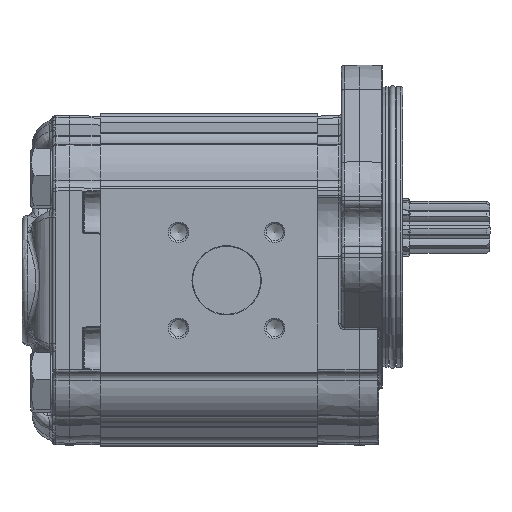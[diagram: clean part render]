
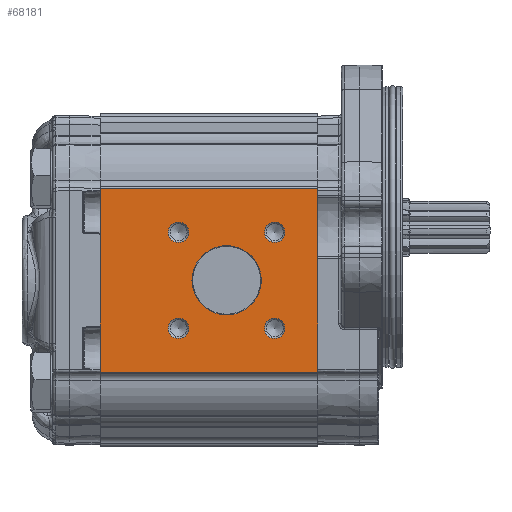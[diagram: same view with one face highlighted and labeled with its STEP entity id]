
A CAD part, left-side view. The second image highlights one B-rep face of the part: STEP entity #68181.
In plain terms, the highlighted planar face has unit normal (-1, 0, 0).
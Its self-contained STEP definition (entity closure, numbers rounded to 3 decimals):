
#4571=PLANE('',#72647);
#6362=CIRCLE('',#72648,10.2);
#6363=CIRCLE('',#72649,3.);
#6364=CIRCLE('',#72650,3.);
#6365=CIRCLE('',#72651,3.);
#6366=CIRCLE('',#72652,3.);
#14545=ORIENTED_EDGE('',*,*,#25306,.T.);
#14546=ORIENTED_EDGE('',*,*,#25307,.T.);
#14547=ORIENTED_EDGE('',*,*,#25308,.T.);
#14548=ORIENTED_EDGE('',*,*,#25309,.T.);
#14549=ORIENTED_EDGE('',*,*,#25310,.T.);
#14550=ORIENTED_EDGE('',*,*,#25311,.F.);
#14551=ORIENTED_EDGE('',*,*,#25312,.F.);
#14552=ORIENTED_EDGE('',*,*,#25313,.T.);
#14553=ORIENTED_EDGE('',*,*,#25314,.T.);
#25306=EDGE_CURVE('',#31071,#31071,#6362,.F.);
#25307=EDGE_CURVE('',#31072,#31072,#6363,.F.);
#25308=EDGE_CURVE('',#31073,#31073,#6364,.F.);
#25309=EDGE_CURVE('',#31074,#31074,#6365,.F.);
#25310=EDGE_CURVE('',#31075,#31075,#6366,.F.);
#25311=EDGE_CURVE('',#31076,#31077,#34396,.T.);
#25312=EDGE_CURVE('',#31078,#31076,#34397,.T.);
#25313=EDGE_CURVE('',#31078,#31079,#34398,.T.);
#25314=EDGE_CURVE('',#31079,#31077,#34399,.T.);
#31071=VERTEX_POINT('',#115234);
#31072=VERTEX_POINT('',#115236);
#31073=VERTEX_POINT('',#115238);
#31074=VERTEX_POINT('',#115240);
#31075=VERTEX_POINT('',#115242);
#31076=VERTEX_POINT('',#115244);
#31077=VERTEX_POINT('',#115245);
#31078=VERTEX_POINT('',#115247);
#31079=VERTEX_POINT('',#115249);
#34396=LINE('',#115243,#36756);
#34397=LINE('',#115246,#36757);
#34398=LINE('',#115248,#36758);
#34399=LINE('',#115250,#36759);
#36756=VECTOR('',#81582,1000.);
#36757=VECTOR('',#81583,1000.);
#36758=VECTOR('',#81584,1000.);
#36759=VECTOR('',#81585,1000.);
#39741=EDGE_LOOP('',(#14545));
#39742=EDGE_LOOP('',(#14546));
#39743=EDGE_LOOP('',(#14547));
#39744=EDGE_LOOP('',(#14548));
#39745=EDGE_LOOP('',(#14549));
#39746=EDGE_LOOP('',(#14550,#14551,#14552,#14553));
#43153=FACE_BOUND('',#39741,.T.);
#43154=FACE_BOUND('',#39742,.T.);
#43155=FACE_BOUND('',#39743,.T.);
#43156=FACE_BOUND('',#39744,.T.);
#43157=FACE_BOUND('',#39745,.T.);
#43158=FACE_BOUND('',#39746,.T.);
#68181=ADVANCED_FACE('',(#43153,#43154,#43155,#43156,#43157,#43158),#4571,
 .T.);
#72647=AXIS2_PLACEMENT_3D('',#115232,#81570,#81571);
#72648=AXIS2_PLACEMENT_3D('',#115233,#81572,#81573);
#72649=AXIS2_PLACEMENT_3D('',#115235,#81574,#81575);
#72650=AXIS2_PLACEMENT_3D('',#115237,#81576,#81577);
#72651=AXIS2_PLACEMENT_3D('',#115239,#81578,#81579);
#72652=AXIS2_PLACEMENT_3D('',#115241,#81580,#81581);
#81570=DIRECTION('',(-1.,0.,0.));
#81571=DIRECTION('',(0.,0.,1.));
#81572=DIRECTION('',(-1.,0.,0.));
#81573=DIRECTION('',(0.,0.,1.));
#81574=DIRECTION('',(-1.,0.,0.));
#81575=DIRECTION('',(0.,0.,1.));
#81576=DIRECTION('',(-1.,0.,0.));
#81577=DIRECTION('',(0.,0.,1.));
#81578=DIRECTION('',(-1.,0.,0.));
#81579=DIRECTION('',(0.,0.,1.));
#81580=DIRECTION('',(-1.,0.,0.));
#81581=DIRECTION('',(0.,0.,1.));
#81582=DIRECTION('',(0.,0.,-1.));
#81583=DIRECTION('',(0.,-1.,0.));
#81584=DIRECTION('',(0.,0.,-1.));
#81585=DIRECTION('',(0.,-1.,0.));
#115232=CARTESIAN_POINT('',(-43.,64.,27.048));
#115233=CARTESIAN_POINT('',(-43.,26.8,0.));
#115234=CARTESIAN_POINT('',(-43.,26.8,10.2));
#115235=CARTESIAN_POINT('',(-43.,40.942,-14.142));
#115236=CARTESIAN_POINT('',(-43.,40.942,-11.142));
#115237=CARTESIAN_POINT('',(-43.,40.942,14.142));
#115238=CARTESIAN_POINT('',(-43.,40.942,17.142));
#115239=CARTESIAN_POINT('',(-43.,12.658,14.142));
#115240=CARTESIAN_POINT('',(-43.,12.658,17.142));
#115241=CARTESIAN_POINT('',(-43.,12.658,-14.142));
#115242=CARTESIAN_POINT('',(-43.,12.658,-11.142));
#115243=CARTESIAN_POINT('',(-43.,0.,27.048));
#115244=CARTESIAN_POINT('',(-43.,0.,27.048));
#115245=CARTESIAN_POINT('',(-43.,0.,-27.048));
#115246=CARTESIAN_POINT('',(-43.,64.,27.048));
#115247=CARTESIAN_POINT('',(-43.,64.,27.048));
#115248=CARTESIAN_POINT('',(-43.,64.,27.048));
#115249=CARTESIAN_POINT('',(-43.,64.,-27.048));
#115250=CARTESIAN_POINT('',(-43.,64.,-27.048));
